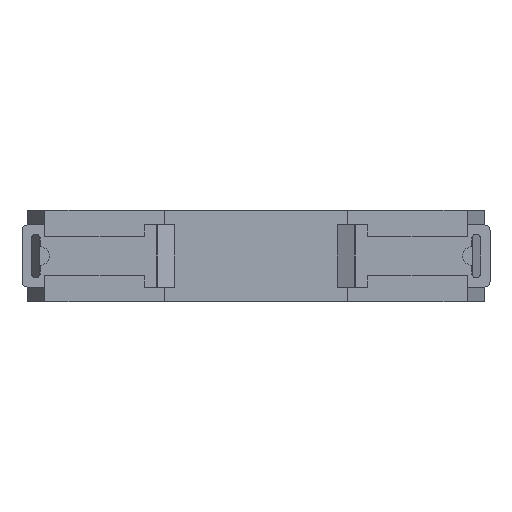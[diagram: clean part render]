
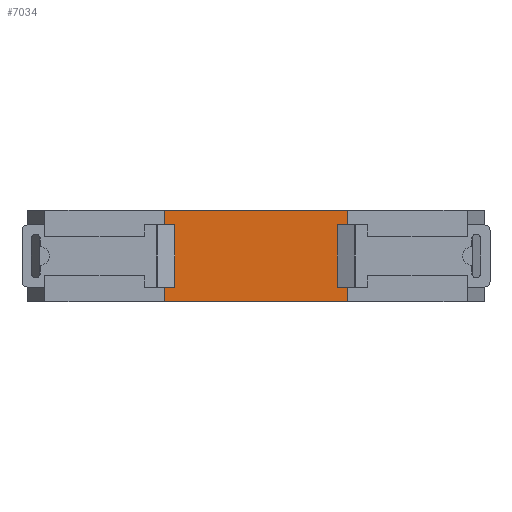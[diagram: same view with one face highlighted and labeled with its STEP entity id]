
A CAD part, left-side view. The second image highlights one B-rep face of the part: STEP entity #7034.
In plain terms, the highlighted planar face has unit normal (-1, 0, 0).
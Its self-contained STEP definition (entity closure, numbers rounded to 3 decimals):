
#200 = DIRECTION ( 'NONE',  ( 1., 0., 0. ) ) ;
#277 = PLANE ( 'NONE',  #449 ) ;
#449 = AXIS2_PLACEMENT_3D ( 'NONE', #3745, #200, #8975 ) ;
#952 = VERTEX_POINT ( 'NONE', #9093 ) ;
#1286 = ORIENTED_EDGE ( 'NONE', *, *, #1912, .F. ) ;
#1554 = CARTESIAN_POINT ( 'NONE',  ( -60., -4.25, 18. ) ) ;
#1787 = VECTOR ( 'NONE', #10433, 1000. ) ;
#1912 = EDGE_CURVE ( 'NONE', #952, #2384, #9876, .T. ) ;
#2056 = DIRECTION ( 'NONE',  ( 0., -1., 0. ) ) ;
#2353 = EDGE_CURVE ( 'NONE', #952, #10766, #9288, .T. ) ;
#2384 = VERTEX_POINT ( 'NONE', #8332 ) ;
#2765 = ORIENTED_EDGE ( 'NONE', *, *, #8035, .T. ) ;
#3283 = CARTESIAN_POINT ( 'NONE',  ( -60., -4.25, 0. ) ) ;
#3318 = DIRECTION ( 'NONE',  ( 0., 0., -1. ) ) ;
#3485 = CARTESIAN_POINT ( 'NONE',  ( -60., -40.25, 0. ) ) ;
#3745 = CARTESIAN_POINT ( 'NONE',  ( -60., -4.25, 18. ) ) ;
#4786 = ORIENTED_EDGE ( 'NONE', *, *, #5593, .F. ) ;
#5181 = EDGE_LOOP ( 'NONE', ( #2765, #4786, #1286, #7699 ) ) ;
#5338 = LINE ( 'NONE', #7235, #10924 ) ;
#5593 = EDGE_CURVE ( 'NONE', #2384, #5649, #8507, .T. ) ;
#5649 = VERTEX_POINT ( 'NONE', #3485 ) ;
#6840 = FACE_OUTER_BOUND ( 'NONE', #5181, .T. ) ;
#7034 = ADVANCED_FACE ( 'NONE', ( #6840 ), #277, .F. ) ;
#7235 = CARTESIAN_POINT ( 'NONE',  ( -60., -4.25, 0. ) ) ;
#7699 = ORIENTED_EDGE ( 'NONE', *, *, #2353, .T. ) ;
#8035 = EDGE_CURVE ( 'NONE', #10766, #5649, #5338, .T. ) ;
#8332 = CARTESIAN_POINT ( 'NONE',  ( -60., -40.25, 18. ) ) ;
#8507 = LINE ( 'NONE', #11062, #10167 ) ;
#8975 = DIRECTION ( 'NONE',  ( 0., 1., 0. ) ) ;
#9019 = VECTOR ( 'NONE', #3318, 1000. ) ;
#9093 = CARTESIAN_POINT ( 'NONE',  ( -60., -4.25, 18. ) ) ;
#9288 = LINE ( 'NONE', #10058, #9019 ) ;
#9876 = LINE ( 'NONE', #1554, #1787 ) ;
#10058 = CARTESIAN_POINT ( 'NONE',  ( -60., -4.25, 18. ) ) ;
#10167 = VECTOR ( 'NONE', #10315, 1000. ) ;
#10315 = DIRECTION ( 'NONE',  ( 0., 0., -1. ) ) ;
#10433 = DIRECTION ( 'NONE',  ( 0., -1., 0. ) ) ;
#10766 = VERTEX_POINT ( 'NONE', #3283 ) ;
#10924 = VECTOR ( 'NONE', #2056, 1000. ) ;
#11062 = CARTESIAN_POINT ( 'NONE',  ( -60., -40.25, 18. ) ) ;
